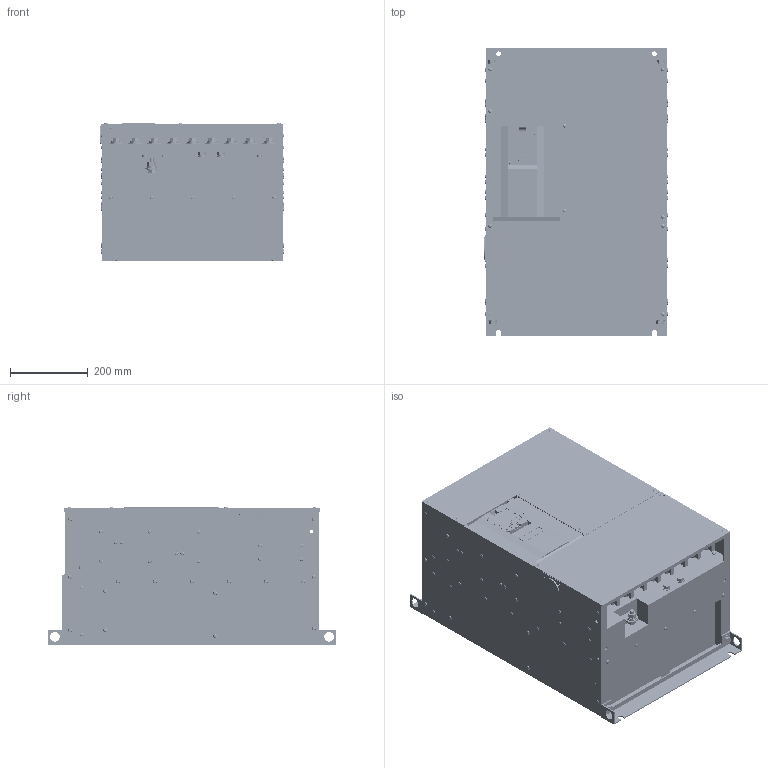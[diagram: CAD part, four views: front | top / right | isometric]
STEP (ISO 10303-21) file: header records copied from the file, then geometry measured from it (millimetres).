
FILE_DESCRIPTION((''),'2;1');
FILE_NAME('3D-INV-A8-02_18_ASM','2014-01-24T',('UJ56049'),(''),'PRO/ENGINEER BY PARAMETRIC TECHNOLOGY CORPORATION, 2011490','PRO/ENGINEER BY PARAMETRIC TECHNOLOGY CORPORATION, 2011490','');
FILE_SCHEMA(('CONFIG_CONTROL_DESIGN'));
Products named in the file (34): 3D-BASE-A8-02_18; 3D-WAKU-A8-02_18_ASM; 3D-ASHI_UPR-A8-02_17; 3D-BOLT-ASHI-UPR-A8-02_17; 3D-BOLT-ASHI-UPR-A8-02_17_ASM; 3D-ASHI-LWR-A8-02_17; 3D-BOLT-ASHI-LWR-A8-02_17; 3D-BOLT-ASHI-LWR-A8-02_17_ASM; 3D-BUSH-A8; 3D-BUSH-A8_ASM; 3D-FAN_MMF-12D24DS_120-38-A8; 3D-FAN_ASSY-A8-02_17_ASM; 3D-FAN_COV-A8; 3D-FAN-COV-A8-02_17_ASM; 3D-BOLT-SW-PW-M10X25_; 3D-TE_NEJI-M4X8_; 3D-TE_COV-R1S1_; 3D-TE_ASSY-R1S1_ASM; 3D-TA-A8; 3D-A8-TA_ASM; 3D-M10X30-A8; 3D-M10X30-A8_ASM; 3D-BOLT-DOT-P1-A8-02_18; 3D-BOLT-DOT-P1-A8-02_18_ASM; 3D-BOLT_DOT-A8-02_18_ASM; 3D-CA_COVER-A8; 3D-DU_ASSY-A8; 3D-IF_COV-A80; 3D-SC-PN-BD-M4X10-BZN-A8; 3D-CA_COV-A8_ASM; 3D-COV_LWR-A8-02_17; 3D-SC-M4X10-BZN; 3D-BOLT-COV-LWR-A8-02_17_ASM; 3D-INV-A8-02_18_ASM
Assembly tree (53 placements, depth 4):
  3D-INV-A8-02_18_ASM
    3D-WAKU-A8-02_18_ASM
      3D-BASE-A8-02_18
    3D-ASHI_UPR-A8-02_17
    3D-BOLT-ASHI-UPR-A8-02_17_ASM
      3D-BOLT-ASHI-UPR-A8-02_17
    3D-ASHI-LWR-A8-02_17
    3D-BOLT-ASHI-LWR-A8-02_17_ASM
      3D-BOLT-ASHI-LWR-A8-02_17
    3D-BUSH-A8_ASM
      3D-BUSH-A8
    3D-FAN_ASSY-A8-02_17_ASM
      3D-FAN_MMF-12D24DS_120-38-A8  x3
    3D-FAN-COV-A8-02_17_ASM
      3D-FAN_COV-A8  x3
    3D-BOLT-SW-PW-M10X25_  x2
    3D-TE_ASSY-R1S1_ASM
      3D-TE_NEJI-M4X8_  x4
      3D-TE_COV-R1S1_
    3D-A8-TA_ASM
      3D-TA-A8
    3D-BOLT_DOT-A8-02_18_ASM
      3D-M10X30-A8_ASM  x9
        3D-M10X30-A8
      3D-BOLT-DOT-P1-A8-02_18_ASM
        3D-BOLT-DOT-P1-A8-02_18
    3D-CA_COV-A8_ASM
      3D-CA_COVER-A8
      3D-DU_ASSY-A8
      3D-IF_COV-A80
      3D-SC-PN-BD-M4X10-BZN-A8  x2
    3D-COV_LWR-A8-02_17
    3D-BOLT-COV-LWR-A8-02_17_ASM
      3D-SC-M4X10-BZN  x4
Bounding box: 471.7 x 740 x 355.9 mm (x, y, z)
Volume: 93304455.2 mm3; surface area: 3425496.8 mm2
Topology: 47 solids, 64 shells, 5727 faces, 15273 edges, 9974 vertices
Faces by surface type: plane 3814, cylinder 1488, torus 212, sphere 80, cone 70, bspline 63
Entity records: 137367 total; most frequent: CARTESIAN_POINT 24604, DIRECTION 23446, ORIENTED_EDGE 23042, EDGE_CURVE 11521, VECTOR 8314, LINE 8314, VERTEX_POINT 7574, AXIS2_PLACEMENT_3D 7566
